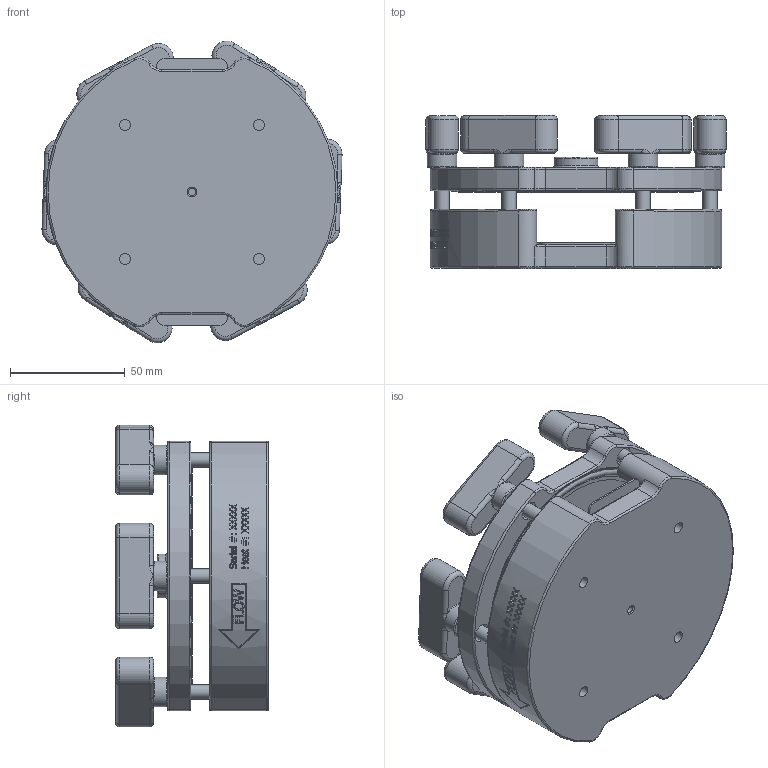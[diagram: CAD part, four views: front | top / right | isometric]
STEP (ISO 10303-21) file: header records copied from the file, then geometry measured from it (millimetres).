
FILE_DESCRIPTION(/* description */ (''),/* implementation_level */ '2;1');
FILE_NAME(/* name */ 'SDO6-CA-G6.stp',/* time_stamp */ '2024-05-31T13:03:17-04:00',/* author */ ('kdone'),/* organization */ (''),/* preprocessor_version */ 'ST-DEVELOPER v19.2',/* originating_system */ 'Autodesk Inventor 2023',/* authorisation */ '');
FILE_SCHEMA (('AUTOMOTIVE_DESIGN { 1 0 10303 214 3 1 1 }'));
Products named in the file (7): SDO6NZA3 Assembly; SDO6XX6; DI-SDO6-G3; SDO6SNX6; 9452K351_Oil-Resistant Buna-N O-Ring; CG-SDO6-G4; 6wingscrew concept6
Assembly tree (12 placements, depth 2):
  SDO6NZA3 Assembly
    SDO6XX6
    DI-SDO6-G3  x2
    SDO6SNX6
    9452K351_Oil-Resistant Buna-N O-Ring
    CG-SDO6-G4
    6wingscrew concept6  x6
Bounding box: 130.8 x 66.52 x 131.51 mm (x, y, z)
Volume: 339975.9 mm3; surface area: 145129.1 mm2
Topology: 12 solids, 12 shells, 1729 faces, 4592 edges, 2958 vertices
Faces by surface type: plane 1070, bspline 346, cylinder 192, torus 96, cone 25
Full cylindrical faces by diameter (mm): 2.286 x1, 3.175 x1, 4.978 x4, 6.205 x6, 6.401 x12, 7.976 x6, 8.204 x6, 8.306 x1, 12.954 x6, 19.05 x1, 66.04 x1, 82.474 x1, 98.069 x1, 104.419 x1, 106.172 x2
Entity records: 53000 total; most frequent: CARTESIAN_POINT 15605, ORIENTED_EDGE 8250, DIRECTION 6665, EDGE_CURVE 4125, LINE 2957, VECTOR 2957, VERTEX_POINT 2721, AXIS2_PLACEMENT_3D 1854
